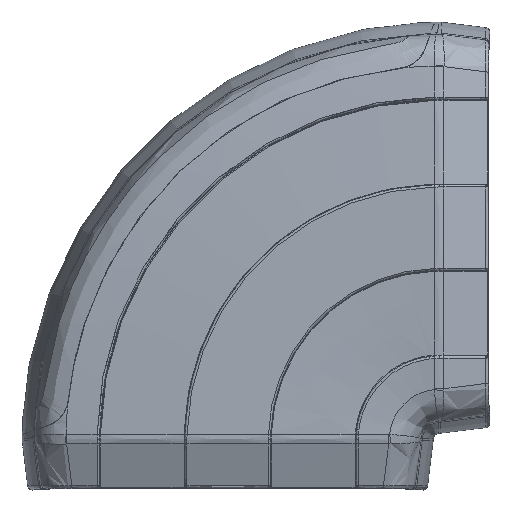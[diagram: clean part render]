
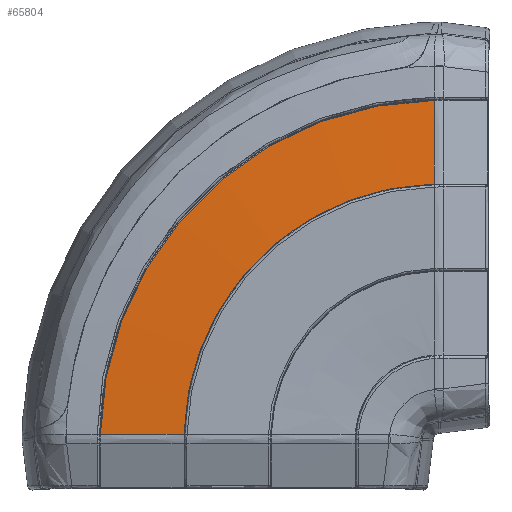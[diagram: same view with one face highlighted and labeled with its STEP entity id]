
A CAD part, left-side view. The second image highlights one B-rep face of the part: STEP entity #65804.
In plain terms, the highlighted toroidal (fillet/blend) face has major radius 48.083 mm and minor radius 286.042 mm.
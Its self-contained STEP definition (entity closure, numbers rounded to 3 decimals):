
#1782 = CARTESIAN_POINT ( 'NONE',  ( -53.283, -11.868, 189.881 ) ) ;
#5225 = CARTESIAN_POINT ( 'NONE',  ( -54.477, 47.908, 114.008 ) ) ;
#6605 = CARTESIAN_POINT ( 'NONE',  ( -54.579, 44.966, 114.007 ) ) ;
#8491 = CARTESIAN_POINT ( 'NONE',  ( -53.888, -11.87, 183.346 ) ) ;
#9395 = CARTESIAN_POINT ( 'NONE',  ( -54.102, -11.87, 180.193 ) ) ;
#12690 = CIRCLE ( 'NONE', #113227, 57.977 ) ;
#13108 = FACE_OUTER_BOUND ( 'NONE', #58106, .T. ) ;
#15995 = B_SPLINE_CURVE_WITH_KNOTS ( 'NONE', 3,
 ( #103016, #125694, #136102, #91690, #26918, #102547, #61448, #69954, #136568, #114351, #37811, #113429, #71823, #113884, #5225, #6605 ),
 .UNSPECIFIED., .F., .F.,
 ( 4, 2, 1, 1, 1, 1, 1, 1, 2, 2, 4 ),
 ( 0., 0.25, 0.375, 0.437, 0.469, 0.484, 0.492, 0.496, 0.498, 0.5, 1. ),
 .UNSPECIFIED. ) ;
#16172 = DIRECTION ( 'NONE',  ( -1., 0., 0. ) ) ;
#20701 = CARTESIAN_POINT ( 'NONE',  ( -54.225, -11.871, 178.276 ) ) ;
#21010 = CARTESIAN_POINT ( 'NONE',  ( -53.283, 64.001, 114.011 ) ) ;
#21974 = ORIENTED_EDGE ( 'NONE', *, *, #109826, .T. ) ;
#23826 = CARTESIAN_POINT ( 'NONE',  ( -54.579, -11.872, 170.846 ) ) ;
#26918 = CARTESIAN_POINT ( 'NONE',  ( -53.899, 57.139, 114.01 ) ) ;
#27009 = DIRECTION ( 'NONE',  ( 0., 0., 1. ) ) ;
#29735 = CARTESIAN_POINT ( 'NONE',  ( -54.115, -11.87, 180.007 ) ) ;
#31699 = TOROIDAL_SURFACE ( 'NONE', #38943, 48.083, 286.042 ) ;
#37811 = CARTESIAN_POINT ( 'NONE',  ( -54.086, 54.546, 114.01 ) ) ;
#38556 = B_SPLINE_CURVE_WITH_KNOTS ( 'NONE', 3,
 ( #85484, #137993, #74179, #94516, #139371, #20701, #104899, #115749, #29735, #9395, #105362, #52436, #116235, #73240, #8491, #84133, #94961 ),
 .UNSPECIFIED., .F., .F.,
 ( 4, 2, 2, 1, 1, 1, 1, 1, 2, 2, 4 ),
 ( 0., 0.25, 0.375, 0.437, 0.469, 0.484, 0.492, 0.496, 0.498, 0.5, 1. ),
 .UNSPECIFIED. ) ;
#38943 = AXIS2_PLACEMENT_3D ( 'NONE', #136197, #16172, #27009 ) ;
#41266 = EDGE_CURVE ( 'NONE', #64920, #56849, #12690, .T. ) ;
#50846 = CARTESIAN_POINT ( 'NONE',  ( -54.579, -13., 112.88 ) ) ;
#52436 = CARTESIAN_POINT ( 'NONE',  ( -54.093, -11.87, 180.326 ) ) ;
#54576 = DIRECTION ( 'NONE',  ( -1., 0., 0. ) ) ;
#56849 = VERTEX_POINT ( 'NONE', #23826 ) ;
#58106 = EDGE_LOOP ( 'NONE', ( #21974, #99963, #107365, #132849 ) ) ;
#61448 = CARTESIAN_POINT ( 'NONE',  ( -54.044, 55.151, 114.01 ) ) ;
#62646 = DIRECTION ( 'NONE',  ( 1., 0., 0. ) ) ;
#64920 = VERTEX_POINT ( 'NONE', #113311 ) ;
#65804 = ADVANCED_FACE ( 'NONE', ( #13108 ), #31699, .T. ) ;
#66668 = AXIS2_PLACEMENT_3D ( 'NONE', #119295, #54576, #130170 ) ;
#67341 = EDGE_CURVE ( 'NONE', #138080, #64920, #15995, .T. ) ;
#69954 = CARTESIAN_POINT ( 'NONE',  ( -54.067, 54.825, 114.01 ) ) ;
#71823 = CARTESIAN_POINT ( 'NONE',  ( -54.089, 54.513, 114.01 ) ) ;
#73240 = CARTESIAN_POINT ( 'NONE',  ( -54.09, -11.87, 180.368 ) ) ;
#74179 = CARTESIAN_POINT ( 'NONE',  ( -54.463, -11.872, 173.847 ) ) ;
#84133 = CARTESIAN_POINT ( 'NONE',  ( -53.626, -11.869, 186.514 ) ) ;
#85484 = CARTESIAN_POINT ( 'NONE',  ( -54.579, -11.872, 170.846 ) ) ;
#87044 = CIRCLE ( 'NONE', #66668, 77.009 ) ;
#91690 = CARTESIAN_POINT ( 'NONE',  ( -53.806, 58.308, 114.01 ) ) ;
#94516 = CARTESIAN_POINT ( 'NONE',  ( -54.343, -11.871, 176.23 ) ) ;
#94961 = CARTESIAN_POINT ( 'NONE',  ( -53.283, -11.868, 189.881 ) ) ;
#99963 = ORIENTED_EDGE ( 'NONE', *, *, #107322, .T. ) ;
#102547 = CARTESIAN_POINT ( 'NONE',  ( -53.998, 55.809, 114.01 ) ) ;
#103016 = CARTESIAN_POINT ( 'NONE',  ( -53.283, 64.001, 114.011 ) ) ;
#104685 = DIRECTION ( 'NONE',  ( 0., 0., -1. ) ) ;
#104899 = CARTESIAN_POINT ( 'NONE',  ( -54.187, -11.87, 178.899 ) ) ;
#105362 = CARTESIAN_POINT ( 'NONE',  ( -54.096, -11.87, 180.286 ) ) ;
#107322 = EDGE_CURVE ( 'NONE', #108183, #138080, #87044, .T. ) ;
#107365 = ORIENTED_EDGE ( 'NONE', *, *, #67341, .T. ) ;
#108183 = VERTEX_POINT ( 'NONE', #1782 ) ;
#109826 = EDGE_CURVE ( 'NONE', #56849, #108183, #38556, .T. ) ;
#113227 = AXIS2_PLACEMENT_3D ( 'NONE', #50846, #62646, #104685 ) ;
#113311 = CARTESIAN_POINT ( 'NONE',  ( -54.579, 44.966, 114.007 ) ) ;
#113429 = CARTESIAN_POINT ( 'NONE',  ( -54.088, 54.523, 114.01 ) ) ;
#113884 = CARTESIAN_POINT ( 'NONE',  ( -54.322, 51.087, 114.009 ) ) ;
#114351 = CARTESIAN_POINT ( 'NONE',  ( -54.084, 54.581, 114.01 ) ) ;
#115749 = CARTESIAN_POINT ( 'NONE',  ( -54.139, -11.87, 179.636 ) ) ;
#116235 = CARTESIAN_POINT ( 'NONE',  ( -54.091, -11.87, 180.353 ) ) ;
#119295 = CARTESIAN_POINT ( 'NONE',  ( -53.283, -13., 112.88 ) ) ;
#125694 = CARTESIAN_POINT ( 'NONE',  ( -53.455, 62.318, 114.011 ) ) ;
#130170 = DIRECTION ( 'NONE',  ( 0., -1., 0. ) ) ;
#132849 = ORIENTED_EDGE ( 'NONE', *, *, #41266, .T. ) ;
#136102 = CARTESIAN_POINT ( 'NONE',  ( -53.606, 60.684, 114.011 ) ) ;
#136197 = CARTESIAN_POINT ( 'NONE',  ( 231.292, -13., 112.88 ) ) ;
#136568 = CARTESIAN_POINT ( 'NONE',  ( -54.078, 54.662, 114.01 ) ) ;
#137993 = CARTESIAN_POINT ( 'NONE',  ( -54.528, -11.872, 172.317 ) ) ;
#138080 = VERTEX_POINT ( 'NONE', #21010 ) ;
#139371 = CARTESIAN_POINT ( 'NONE',  ( -54.298, -11.871, 177.04 ) ) ;
